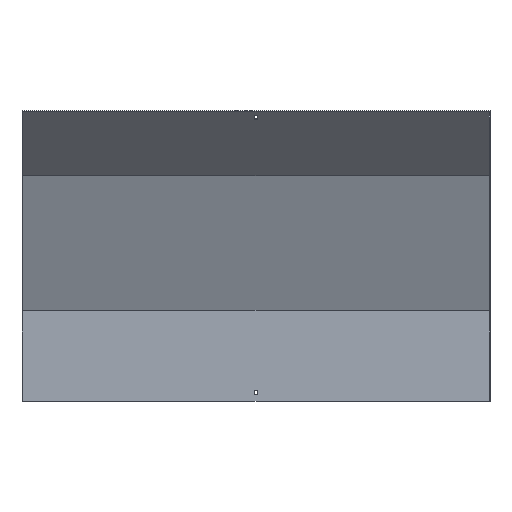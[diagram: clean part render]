
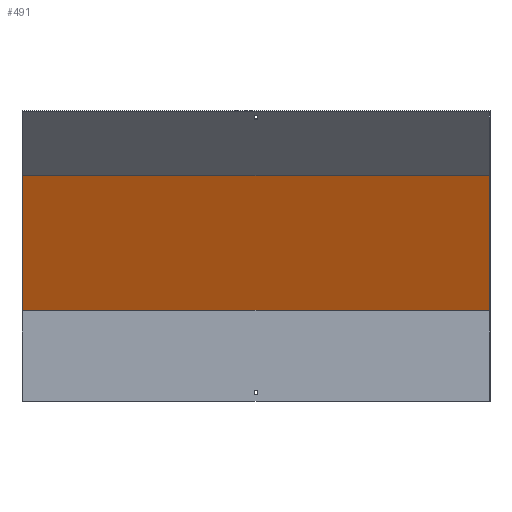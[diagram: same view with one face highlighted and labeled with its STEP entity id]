
A CAD part, front view. The second image highlights one B-rep face of the part: STEP entity #491.
In plain terms, the highlighted planar face has unit normal (0, -0.924, -0.383).
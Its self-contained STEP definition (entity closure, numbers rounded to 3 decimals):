
#17 = FACE_OUTER_BOUND ( 'NONE', #712, .T. ) ;
#51 = ORIENTED_EDGE ( 'NONE', *, *, #577, .T. ) ;
#67 = DIRECTION ( 'NONE',  ( 0., -0.383, 0.924 ) ) ;
#116 = CARTESIAN_POINT ( 'NONE',  ( 451.5, -88.789, 434.699 ) ) ;
#144 = DIRECTION ( 'NONE',  ( 0., -0.383, 0.924 ) ) ;
#156 = DIRECTION ( 'NONE',  ( -1., 0., 0. ) ) ;
#198 = VERTEX_POINT ( 'NONE', #592 ) ;
#205 = CARTESIAN_POINT ( 'NONE',  ( 451.5, 17.092, 179.08 ) ) ;
#216 = CARTESIAN_POINT ( 'NONE',  ( 451.5, 18.5, 175.68 ) ) ;
#221 = ORIENTED_EDGE ( 'NONE', *, *, #338, .F. ) ;
#230 = ORIENTED_EDGE ( 'NONE', *, *, #688, .F. ) ;
#233 = VECTOR ( 'NONE', #156, 1000. ) ;
#272 = EDGE_CURVE ( 'NONE', #342, #198, #302, .T. ) ;
#273 = DIRECTION ( 'NONE',  ( 0., 0.383, -0.924 ) ) ;
#302 = LINE ( 'NONE', #116, #845 ) ;
#329 = LINE ( 'NONE', #528, #545 ) ;
#333 = PLANE ( 'NONE',  #535 ) ;
#338 = EDGE_CURVE ( 'NONE', #563, #682, #764, .T. ) ;
#342 = VERTEX_POINT ( 'NONE', #681 ) ;
#421 = LINE ( 'NONE', #812, #507 ) ;
#491 = ADVANCED_FACE ( 'NONE', ( #17 ), #333, .T. ) ;
#507 = VECTOR ( 'NONE', #144, 1000. ) ;
#528 = CARTESIAN_POINT ( 'NONE',  ( -450., 77.903, 32.268 ) ) ;
#533 = CARTESIAN_POINT ( 'NONE',  ( 450., 18.5, 175.68 ) ) ;
#535 = AXIS2_PLACEMENT_3D ( 'NONE', #205, #600, #273 ) ;
#545 = VECTOR ( 'NONE', #67, 1000. ) ;
#563 = VERTEX_POINT ( 'NONE', #533 ) ;
#565 = DIRECTION ( 'NONE',  ( -1., 0., 0. ) ) ;
#577 = EDGE_CURVE ( 'NONE', #563, #342, #421, .T. ) ;
#592 = CARTESIAN_POINT ( 'NONE',  ( -450., -88.789, 434.699 ) ) ;
#600 = DIRECTION ( 'NONE',  ( 0., -0.924, -0.383 ) ) ;
#653 = CARTESIAN_POINT ( 'NONE',  ( -450., 18.5, 175.68 ) ) ;
#681 = CARTESIAN_POINT ( 'NONE',  ( 450., -88.789, 434.699 ) ) ;
#682 = VERTEX_POINT ( 'NONE', #653 ) ;
#688 = EDGE_CURVE ( 'NONE', #682, #198, #329, .T. ) ;
#712 = EDGE_LOOP ( 'NONE', ( #230, #221, #51, #726 ) ) ;
#726 = ORIENTED_EDGE ( 'NONE', *, *, #272, .T. ) ;
#764 = LINE ( 'NONE', #216, #233 ) ;
#812 = CARTESIAN_POINT ( 'NONE',  ( 450., 77.903, 32.268 ) ) ;
#845 = VECTOR ( 'NONE', #565, 1000. ) ;
